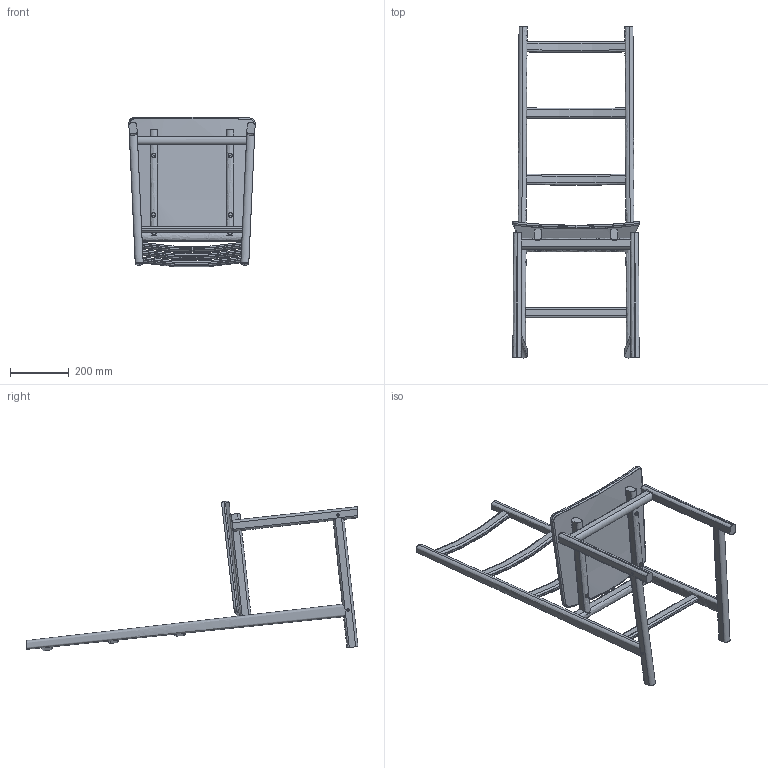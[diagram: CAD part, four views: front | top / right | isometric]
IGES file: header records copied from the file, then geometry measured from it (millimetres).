
Start section: SolidWorks IGES file using analytic representation for surfaces
Global section: file name: C:\Users\Kuma\Desktop\763S Shaker Chair with Upholstered Seat_vb_2016-04-08.IGS; native system: SolidWorks 2016; preprocessor: SolidWorks 2016; author: kuma; date: 160408.162051; units: millimetre
Bounding box: 429.86 x 1128.77 x 507.71 mm (x, y, z)
Surface area: 1057515.6 mm2 (no closed solid volume)
Topology: 0 solids, 0 shells, 101 faces, 2982 edges, 2982 vertices
Faces by surface type: bspline 90, revolution 11
